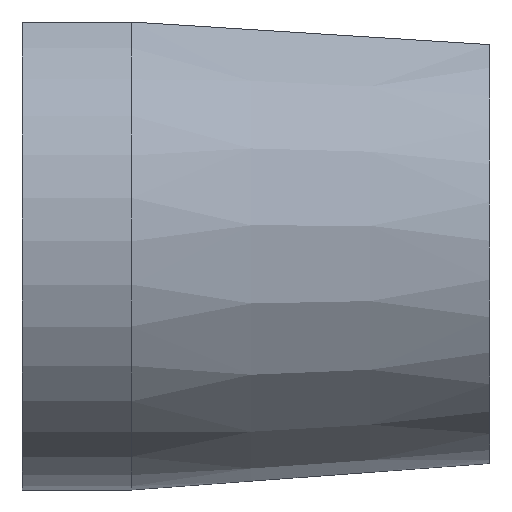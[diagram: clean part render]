
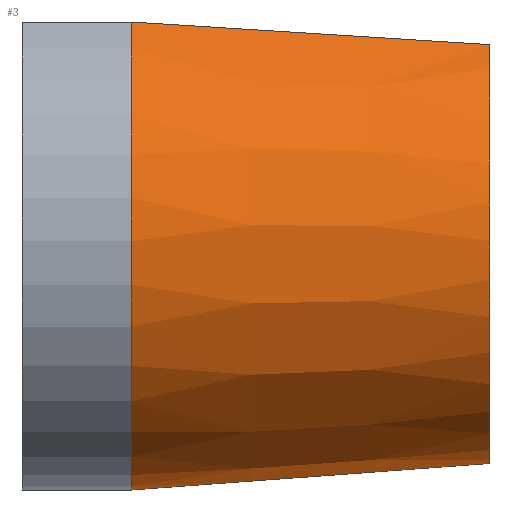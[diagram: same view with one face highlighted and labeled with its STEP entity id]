
A CAD part, front view. The second image highlights one B-rep face of the part: STEP entity #3.
In plain terms, the highlighted conical face has half-angle 4.227 degrees and reference radius 14.5 mm.
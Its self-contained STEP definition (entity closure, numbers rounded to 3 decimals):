
#2 = DIRECTION ( 'NONE',  ( -0.997, 0.038, 0.063 ) ) ;
#3 = ADVANCED_FACE ( 'NONE', ( #141 ), #193, .T. ) ;
#4 = VECTOR ( 'NONE', #2, 1000. ) ;
#16 = ORIENTED_EDGE ( 'NONE', *, *, #24, .F. ) ;
#20 = DIRECTION ( 'NONE',  ( 0.997, 0.038, -0.063 ) ) ;
#24 = EDGE_CURVE ( 'NONE', #43, #90, #260, .T. ) ;
#43 = VERTEX_POINT ( 'NONE', #302 ) ;
#44 = DIRECTION ( 'NONE',  ( 0., 0., 1. ) ) ;
#50 = EDGE_CURVE ( 'NONE', #90, #228, #99, .T. ) ;
#53 = DIRECTION ( 'NONE',  ( -1., 0., 0. ) ) ;
#56 = DIRECTION ( 'NONE',  ( 0., 0., -1. ) ) ;
#68 = ORIENTED_EDGE ( 'NONE', *, *, #50, .F. ) ;
#70 = EDGE_CURVE ( 'NONE', #222, #43, #249, .T. ) ;
#72 = DIRECTION ( 'NONE',  ( -1., 0., 0. ) ) ;
#79 = CARTESIAN_POINT ( 'NONE',  ( -23., 8.447, 13.823 ) ) ;
#86 = ORIENTED_EDGE ( 'NONE', *, *, #174, .F. ) ;
#89 = EDGE_CURVE ( 'NONE', #179, #222, #109, .T. ) ;
#90 = VERTEX_POINT ( 'NONE', #189 ) ;
#91 = ORIENTED_EDGE ( 'NONE', *, *, #70, .F. ) ;
#94 = CARTESIAN_POINT ( 'NONE',  ( -23., 0., 0. ) ) ;
#99 = CIRCLE ( 'NONE', #303, 14.5 ) ;
#109 = CIRCLE ( 'NONE', #244, 16.2 ) ;
#116 = EDGE_LOOP ( 'NONE', ( #16, #91, #295, #86, #68 ) ) ;
#129 = CARTESIAN_POINT ( 'NONE',  ( 0., 7.561, 12.373 ) ) ;
#131 = AXIS2_PLACEMENT_3D ( 'NONE', #252, #208, #44 ) ;
#141 = FACE_OUTER_BOUND ( 'NONE', #116, .T. ) ;
#146 = CARTESIAN_POINT ( 'NONE',  ( 196.176, 0., 0. ) ) ;
#151 = CARTESIAN_POINT ( 'NONE',  ( -23., 0., -16.2 ) ) ;
#160 = DIRECTION ( 'NONE',  ( 0., 0., 1. ) ) ;
#166 = DIRECTION ( 'NONE',  ( 1., 0., 0. ) ) ;
#174 = EDGE_CURVE ( 'NONE', #228, #179, #288, .T. ) ;
#177 = VECTOR ( 'NONE', #20, 1000. ) ;
#179 = VERTEX_POINT ( 'NONE', #79 ) ;
#185 = AXIS2_PLACEMENT_3D ( 'NONE', #286, #53, #160 ) ;
#189 = CARTESIAN_POINT ( 'NONE',  ( 0., -7.561, 12.373 ) ) ;
#193 = CONICAL_SURFACE ( 'NONE', #131, 14.5, 0.074 ) ;
#208 = DIRECTION ( 'NONE',  ( -1., 0., 0. ) ) ;
#222 = VERTEX_POINT ( 'NONE', #151 ) ;
#228 = VERTEX_POINT ( 'NONE', #129 ) ;
#244 = AXIS2_PLACEMENT_3D ( 'NONE', #94, #72, #280 ) ;
#249 = CIRCLE ( 'NONE', #185, 16.2 ) ;
#252 = CARTESIAN_POINT ( 'NONE',  ( 0., 0., 0. ) ) ;
#258 = CARTESIAN_POINT ( 'NONE',  ( 0., 0., 0. ) ) ;
#260 = LINE ( 'NONE', #146, #177 ) ;
#280 = DIRECTION ( 'NONE',  ( 0., 0., 1. ) ) ;
#286 = CARTESIAN_POINT ( 'NONE',  ( -23., 0., 0. ) ) ;
#288 = LINE ( 'NONE', #292, #4 ) ;
#292 = CARTESIAN_POINT ( 'NONE',  ( 196.176, 0., 0. ) ) ;
#295 = ORIENTED_EDGE ( 'NONE', *, *, #89, .F. ) ;
#302 = CARTESIAN_POINT ( 'NONE',  ( -23., -8.447, 13.823 ) ) ;
#303 = AXIS2_PLACEMENT_3D ( 'NONE', #258, #166, #56 ) ;
